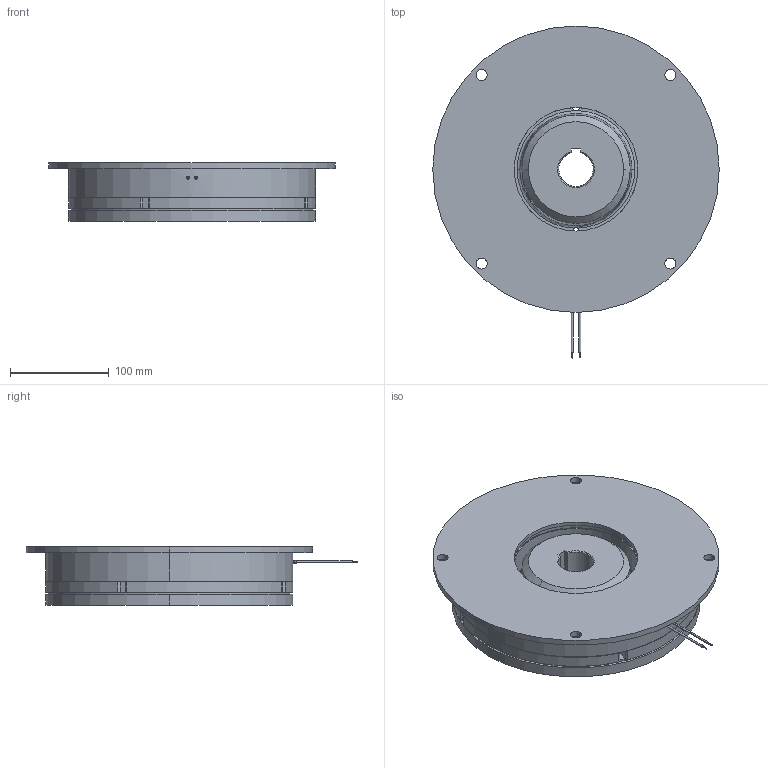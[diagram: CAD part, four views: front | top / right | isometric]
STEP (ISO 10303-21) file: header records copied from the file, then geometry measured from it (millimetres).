
FILE_DESCRIPTION (( 'STEP AP214' ), '1' );
FILE_NAME ('dr_bk_1202-120_mu.STEP', '2021-11-10T10:45:29', ( '' ), ( '' ), 'SwSTEP 2.0', 'SolidWorks 2019', '' );
FILE_SCHEMA (( 'AUTOMOTIVE_DESIGN' ));
Length unit declared in the file: millimetre
Products named in the file (9): dr_bk_1202-120_mu; 10068706_000; 10068900_000_Klemml„nge 9,5mm; 10068893_000; 10068898_000; 10068899_000; 10068895_000; 10068894_000; 10068897_000
Assembly tree (22 placements, depth 4):
  dr_bk_1202-120_mu
    10068706_000
    10068897_000
      10068898_000
      10068899_000
        10068893_000
        10068894_000
        10068900_000_Klemml„nge 9,5mm  x4
        10068895_000  x4
      10068900_000_Klemml„nge 9,5mm  x4
      10068895_000  x4
Bounding box: 290 x 336 x 59.4 mm (x, y, z)
Volume: 2667944.8 mm3; surface area: 429839.6 mm2
Topology: 22 solids, 22 shells, 433 faces, 1012 edges, 608 vertices
Faces by surface type: cylinder 227, cone 98, plane 64, torus 44
Entity records: 9741 total; most frequent: CARTESIAN_POINT 1841, DIRECTION 1562, ORIENTED_EDGE 1288, AXIS2_PLACEMENT_3D 655, EDGE_CURVE 644, VERTEX_POINT 412, CIRCLE 370, EDGE_LOOP 342
